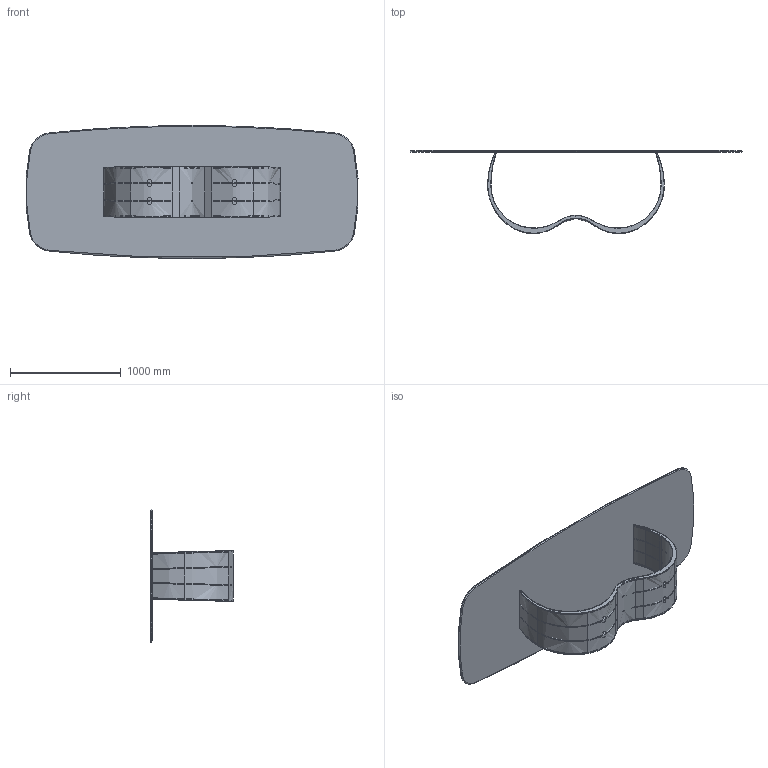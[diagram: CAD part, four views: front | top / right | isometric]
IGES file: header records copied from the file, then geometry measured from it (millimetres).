
Start section: SolidWorks IGES file using analytic representation for surfaces
Global section: file name: Y:\eforma\TECNICO\SOLIDWORKS\E-FORMA\1-TAVOLI\ALISEI 240-300\02 parts\AI44C_Alisei_300x120_Ceramic Shaped.IGS; native system: SolidWorks 2022; preprocessor: SolidWorks 2022; author: eforma.tech; date: 240801.145143; units: millimetre
Bounding box: 2991.72 x 747 x 1200 mm (x, y, z)
Volume: 60930463.1 mm3; surface area: 19193471.2 mm2
Topology: 18 solids, 18 shells, 900 faces, 2524 edges, 1660 vertices
Faces by surface type: bspline 397, plane 338, revolution 165
